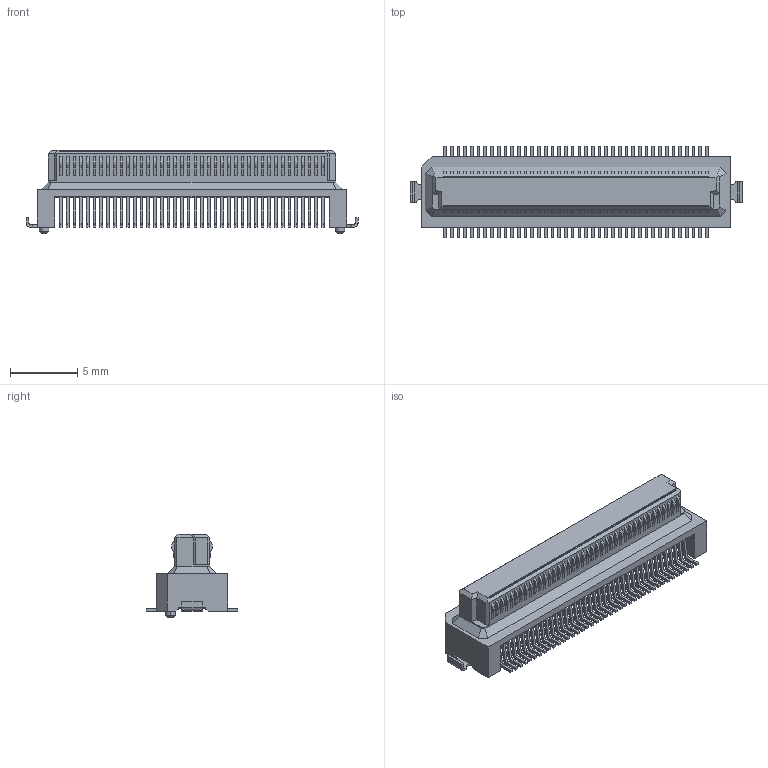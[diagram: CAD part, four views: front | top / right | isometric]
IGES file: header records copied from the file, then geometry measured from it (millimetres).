
Start section: Elysium IGES Interface
Global section: file name: 115HG:\その他\DY関連\CAD\依頼書（ウェブ）_HP用データ\60-36-0120_DY1X-S-2_S-3_S-4_S-5\DY11-080S-3\P39559_DY11-080S-3.igs; native system: Creo Elements/Direct Modeling 20.4A  18-Oct-2021; preprocessor: Creo Element/Direct IGES_3D V2.2; author: Unknown; organization: Unknown; date: 20220224.201239; units: millimetre
Bounding box: 24.7 x 6.8 x 6.23 mm (x, y, z)
Volume: 276.6 mm3; surface area: 704.9 mm2
Topology: 1 solids, 1 shells, 1254 faces, 3231 edges, 2142 vertices
Faces by surface type: bspline 1254
